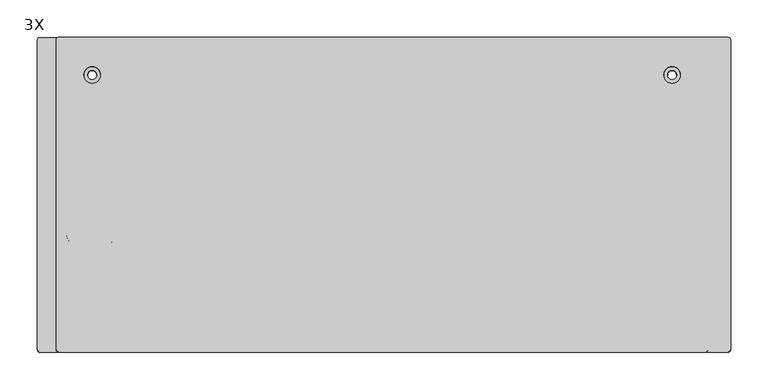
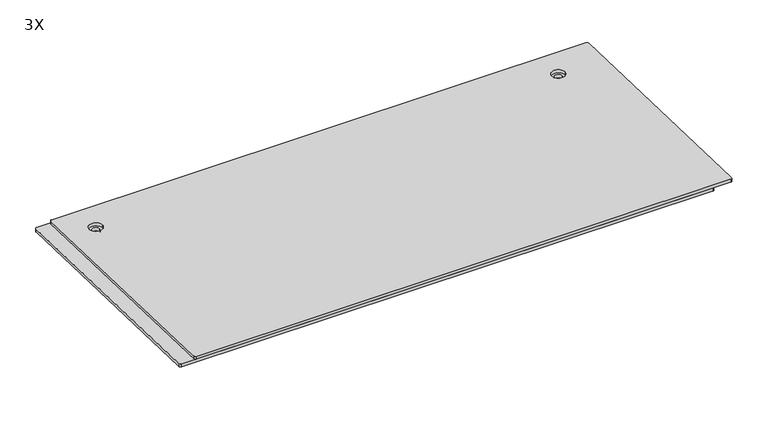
"""IFC4 building model written with IfcOpenShell, lengths in millimetres: proxy geometry, ML PhotonRoof Flat Anthracite Premium : 3X."""

from ifc_helpers import new_model, si_unit, point, frame, frame_2d, origin, place, context, project, spatial, polyline, circle_curve, trimmed, segment, composite_curve, outline, extrude, source, transform, mapped, element, save


def proxy_3x_50ce0638(model_context):
    return source(origin(), model_context, "Body", "SweptSolid", [
        extrude(outline(composite_curve([segment(trimmed(circle_curve(frame_2d((838.0732143, -3.0)), 3.0), [point((838.0732143, 0.0))], [point((841.0732143, -3.0))], False, "CARTESIAN"), True, "CONTINUOUS"), segment(polyline([(841.0732143, -3.0), (841.0732143, -417.0)]), True, "CONTINUOUS"), segment(trimmed(circle_curve(frame_2d((838.0732143, -417.0)), 3.0), [point((841.0732143, -417.0))], [point((838.0732143, -420.0))], False, "CARTESIAN"), True, "CONTINUOUS"), segment(polyline([(838.0732143, -420.0), (-55.9267857, -420.0)]), True, "CONTINUOUS"), segment(trimmed(circle_curve(frame_2d((-55.9267857, -417.0)), 3.0), [point((-55.9267857, -420.0))], [point((-58.9267857, -417.0))], False, "CARTESIAN"), True, "CONTINUOUS"), segment(polyline([(-58.9267857, -417.0), (-58.9267857, -3.0)]), True, "CONTINUOUS"), segment(trimmed(circle_curve(frame_2d((-55.9267857, -3.0)), 3.0), [point((-58.9267857, -3.0))], [point((-55.9267857, 0.0))], False, "CARTESIAN"), True, "CONTINUOUS"), segment(polyline([(-55.9267857, 0.0), (838.0732143, 0.0)]), True, "CONTINUOUS")], self_intersect=False), holes=[composite_curve([segment(trimmed(circle_curve(frame_2d((-10.9267857, -50.0)), 11.0), [point((-21.9267857, -50.0))], [point((0.0732143, -50.0))], True, "CARTESIAN"), True, "CONTINUOUS"), segment(trimmed(circle_curve(frame_2d((-10.9267857, -50.0)), 11.0), [point((0.0732143, -50.0))], [point((-21.9267857, -50.0))], True, "CARTESIAN"), True, "CONTINUOUS")], self_intersect=False), composite_curve([segment(trimmed(circle_curve(frame_2d((763.0732143, -50.0)), 11.0), [point((752.0732143, -50.0))], [point((774.0732143, -50.0))], True, "CARTESIAN"), True, "CONTINUOUS"), segment(trimmed(circle_curve(frame_2d((763.0732143, -50.0)), 11.0), [point((774.0732143, -50.0))], [point((752.0732143, -50.0))], True, "CARTESIAN"), True, "CONTINUOUS")], self_intersect=False)]), frame((-91.0732143, 50.1323897, 3.4268794), z_axis=(0.0, 0.031413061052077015, 0.9995064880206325), x_axis=(1.0, 0.0, 0.0)), (0.0, 0.0, 1.0), 5.0),
        extrude(outline(composite_curve([segment(trimmed(circle_curve(frame_2d((927.0, -3.0)), 3.0), [point((927.0, 0.0))], [point((930.0, -3.0))], False, "CARTESIAN"), True, "CONTINUOUS"), segment(polyline([(930.0, -3.0), (930.0, -417.0)]), True, "CONTINUOUS"), segment(trimmed(circle_curve(frame_2d((927.0, -417.0)), 3.0), [point((930.0, -417.0))], [point((927.0, -420.0))], False, "CARTESIAN"), True, "CONTINUOUS"), segment(polyline([(927.0, -420.0), (38.0, -420.0)]), True, "CONTINUOUS"), segment(trimmed(circle_curve(frame_2d((38.0, -417.0)), 3.0), [point((38.0, -420.0))], [point((35.0, -417.0))], False, "CARTESIAN"), True, "CONTINUOUS"), segment(polyline([(35.0, -417.0), (35.0, -3.0)]), True, "CONTINUOUS"), segment(trimmed(circle_curve(frame_2d((38.0, -3.0)), 3.0), [point((35.0, -3.0))], [point((38.0, 0.0))], False, "CARTESIAN"), True, "CONTINUOUS"), segment(polyline([(38.0, 0.0), (927.0, 0.0)]), True, "CONTINUOUS")], self_intersect=False), holes=[composite_curve([segment(trimmed(circle_curve(frame_2d((108.0, -50.0)), 6.0), [point((102.0, -50.0))], [point((114.0, -50.0))], True, "CARTESIAN"), True, "CONTINUOUS"), segment(trimmed(circle_curve(frame_2d((108.0, -50.0)), 6.0), [point((114.0, -50.0))], [point((102.0, -50.0))], True, "CARTESIAN"), True, "CONTINUOUS")], self_intersect=False), composite_curve([segment(trimmed(circle_curve(frame_2d((882.0, -50.0)), 6.0), [point((876.0, -50.0))], [point((888.0, -50.0))], True, "CARTESIAN"), True, "CONTINUOUS"), segment(trimmed(circle_curve(frame_2d((882.0, -50.0)), 6.0), [point((888.0, -50.0))], [point((876.0, -50.0))], True, "CARTESIAN"), True, "CONTINUOUS")], self_intersect=False)]), frame((-210.0, 49.9753244, -1.5706531), z_axis=(0.0, 0.031413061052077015, 0.9995064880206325), x_axis=(1.0, 0.0, 0.0)), (0.0, 0.0, 1.0), 5.0),
        extrude(outline(composite_curve([segment(polyline([(-9.0, -9.0), (-9.0, 39.0)]), True, "CONTINUOUS"), segment(trimmed(circle_curve(frame_2d((0.0, 39.0)), 9.0), [point((-9.0, 39.0))], [point((0.0, 48.0))], False, "CARTESIAN"), True, "CONTINUOUS"), segment(polyline([(0.0, 48.0), (48.0, 48.0)]), True, "CONTINUOUS"), segment(trimmed(circle_curve(frame_2d((48.0, 39.0)), 9.0), [point((48.0, 48.0))], [point((57.0, 39.0))], False, "CARTESIAN"), True, "CONTINUOUS"), segment(polyline([(57.0, 39.0), (57.0, -9.0)]), True, "CONTINUOUS"), segment(trimmed(circle_curve(frame_2d((48.0, -9.0)), 9.0), [point((57.0, -9.0))], [point((48.0, -18.0))], False, "CARTESIAN"), True, "CONTINUOUS"), segment(polyline([(48.0, -18.0), (0.0, -18.0)]), True, "CONTINUOUS"), segment(trimmed(circle_curve(frame_2d((0.0, -9.0)), 9.0), [point((0.0, -18.0))], [point((-9.0, -9.0))], False, "CARTESIAN"), True, "CONTINUOUS")], self_intersect=False)), frame((-88.0, -215.5221561, -13.2363216), z_axis=(0.0, 0.031413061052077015, 0.9995064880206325), x_axis=(0.0, 0.9995064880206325, -0.031413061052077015)), (0.0, 0.0, 1.0), 20.0),
        extrude(outline(polyline([(44.977792, -1.4135877), (44.9149658, -3.4126007), (27.9233555, -2.8785787), (27.3579204, -20.8696955), (24.359401, -20.7754563), (24.9876622, -0.7853265), (44.977792, -1.4135877)])), frame((602.0, 0.0, 0.0), z_axis=(1.0, 0.0, 0.0), x_axis=(0.0, 1.0, 0.0)), (0.0, 0.0, 1.0), 50.0),
        extrude(outline(polyline([(44.977792, -1.4135877), (44.9149658, -3.4126007), (27.9233555, -2.8785787), (27.3579204, -20.8696955), (24.359401, -20.7754563), (24.9876622, -0.7853265), (44.977792, -1.4135877)])), frame((-77.0, 0.0, 0.0), z_axis=(1.0, 0.0, 0.0), x_axis=(0.0, 1.0, 0.0)), (0.0, 0.0, 1.0), 50.0),
    ])


if __name__ == "__main__":
    model = new_model("IFC4")
    model_context = context("Model", 3, world=origin())
    ifc_project = project(units=[si_unit("LENGTHUNIT", "METRE", prefix="MILLI")], contexts=[model_context])
    site = spatial("IfcSite", under=ifc_project)
    building = spatial("IfcBuilding", under=site)
    placement = place(None, origin())
    proxy_3x_shape = proxy_3x_50ce0638(model_context)
    element("IfcBuildingElementProxy", 1, Name="ML PhotonRoof Flat Anthracite Premium : 3X", ObjectType="ML PhotonRoof Flat Anthracite Premium : 3X", at=placement, inside=building, context=model_context, shape_type="MappedRepresentation", body=[
        mapped(proxy_3x_shape, transform((0.0, 0.0, 0.0), x_axis=(1.0, 0.0, 0.0), y_axis=(0.0, 1.0, 0.0), z_axis=(0.0, 0.0, 1.0))),
    ])
    save(model, "model.ifc")
